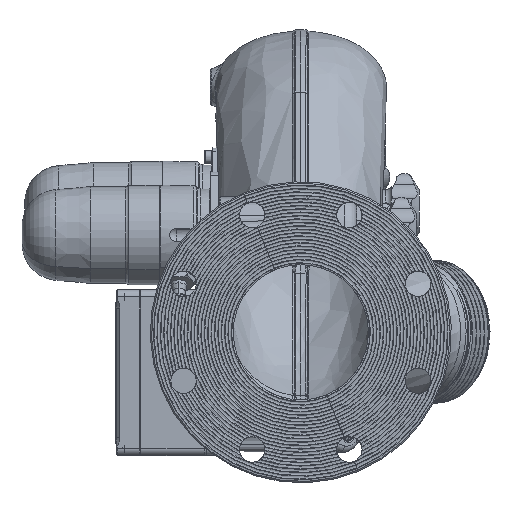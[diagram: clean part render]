
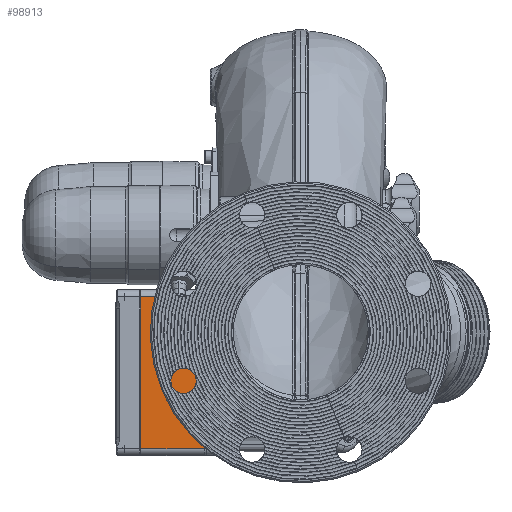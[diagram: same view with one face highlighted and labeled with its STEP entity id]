
A CAD part, front view. The second image highlights one B-rep face of the part: STEP entity #98913.
In plain terms, the highlighted planar face has unit normal (0, -1, 0).
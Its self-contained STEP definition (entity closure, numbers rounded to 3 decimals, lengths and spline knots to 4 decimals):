
#4425 = EDGE_LOOP ( 'NONE', ( #161565, #98558 ) ) ;
#12666 = ORIENTED_EDGE ( 'NONE', *, *, #132461, .F. ) ;
#17841 = DIRECTION ( 'NONE',  ( 0., 0., 1. ) ) ;
#20387 = EDGE_CURVE ( 'NONE', #143062, #104906, #109998, .T. ) ;
#20429 = LINE ( 'NONE', #59942, #54984 ) ;
#22575 = FACE_BOUND ( 'NONE', #4425, .T. ) ;
#28300 = AXIS2_PLACEMENT_3D ( 'NONE', #70108, #87376, #131534 ) ;
#32026 = ORIENTED_EDGE ( 'NONE', *, *, #58035, .T. ) ;
#34953 = CARTESIAN_POINT ( 'NONE',  ( -4.73, 1.306, 1.044 ) ) ;
#37651 = CIRCLE ( 'NONE', #62398, 0.082 ) ;
#42057 = CARTESIAN_POINT ( 'NONE',  ( -3.05, 1.306, -1.278 ) ) ;
#47829 = VERTEX_POINT ( 'NONE', #200711 ) ;
#48697 = DIRECTION ( 'NONE',  ( -1., 0., 0. ) ) ;
#49370 = DIRECTION ( 'NONE',  ( 0., -1., 0. ) ) ;
#51513 = EDGE_LOOP ( 'NONE', ( #153007, #32026, #142277, #12666 ) ) ;
#54984 = VECTOR ( 'NONE', #123375, 39.3701 ) ;
#58035 = EDGE_CURVE ( 'NONE', #143062, #69434, #90120, .T. ) ;
#58071 = VECTOR ( 'NONE', #126571, 39.3701 ) ;
#59942 = CARTESIAN_POINT ( 'NONE',  ( -2.75, 1.306, 1.044 ) ) ;
#60780 = VERTEX_POINT ( 'NONE', #34953 ) ;
#62398 = AXIS2_PLACEMENT_3D ( 'NONE', #175736, #79865, #17841 ) ;
#63429 = CARTESIAN_POINT ( 'NONE',  ( -2.75, 1.306, -3.436 ) ) ;
#65912 = CARTESIAN_POINT ( 'NONE',  ( -4.73, 1.306, -3.436 ) ) ;
#69434 = VERTEX_POINT ( 'NONE', #101267 ) ;
#70108 = CARTESIAN_POINT ( 'NONE',  ( -3.05, 1.306, -1.196 ) ) ;
#70462 = VECTOR ( 'NONE', #148017, 39.3701 ) ;
#74291 = CARTESIAN_POINT ( 'NONE',  ( -4.73, 1.306, -3.436 ) ) ;
#76258 = CARTESIAN_POINT ( 'NONE',  ( -2.85, 1.306, 1.044 ) ) ;
#79035 = AXIS2_PLACEMENT_3D ( 'NONE', #97588, #49370, #48697 ) ;
#79865 = DIRECTION ( 'NONE',  ( 0., -1., 0. ) ) ;
#81800 = CIRCLE ( 'NONE', #28300, 0.082 ) ;
#87376 = DIRECTION ( 'NONE',  ( 0., -1., 0. ) ) ;
#90120 = LINE ( 'NONE', #76258, #58071 ) ;
#97588 = CARTESIAN_POINT ( 'NONE',  ( -2.75, 1.306, -3.436 ) ) ;
#98558 = ORIENTED_EDGE ( 'NONE', *, *, #185118, .F. ) ;
#98913 = ADVANCED_FACE ( 'NONE', ( #22575, #195314 ), #190753, .T. ) ;
#101267 = CARTESIAN_POINT ( 'NONE',  ( -2.85, 1.306, 1.044 ) ) ;
#103265 = VERTEX_POINT ( 'NONE', #42057 ) ;
#104906 = VERTEX_POINT ( 'NONE', #74291 ) ;
#109998 = LINE ( 'NONE', #63429, #188977 ) ;
#123375 = DIRECTION ( 'NONE',  ( -1., 0., 0. ) ) ;
#126571 = DIRECTION ( 'NONE',  ( 0., 0., 1. ) ) ;
#131534 = DIRECTION ( 'NONE',  ( 0., 0., 1. ) ) ;
#132461 = EDGE_CURVE ( 'NONE', #104906, #60780, #201376, .T. ) ;
#142277 = ORIENTED_EDGE ( 'NONE', *, *, #146818, .T. ) ;
#143062 = VERTEX_POINT ( 'NONE', #146664 ) ;
#146664 = CARTESIAN_POINT ( 'NONE',  ( -2.85, 1.306, -3.436 ) ) ;
#146818 = EDGE_CURVE ( 'NONE', #69434, #60780, #20429, .T. ) ;
#148017 = DIRECTION ( 'NONE',  ( 0., 0., 1. ) ) ;
#153007 = ORIENTED_EDGE ( 'NONE', *, *, #20387, .F. ) ;
#161565 = ORIENTED_EDGE ( 'NONE', *, *, #183494, .F. ) ;
#173789 = DIRECTION ( 'NONE',  ( -1., 0., 0. ) ) ;
#175736 = CARTESIAN_POINT ( 'NONE',  ( -3.05, 1.306, -1.196 ) ) ;
#183494 = EDGE_CURVE ( 'NONE', #47829, #103265, #37651, .T. ) ;
#185118 = EDGE_CURVE ( 'NONE', #103265, #47829, #81800, .T. ) ;
#188977 = VECTOR ( 'NONE', #173789, 39.3701 ) ;
#190753 = PLANE ( 'NONE',  #79035 ) ;
#195314 = FACE_OUTER_BOUND ( 'NONE', #51513, .T. ) ;
#200711 = CARTESIAN_POINT ( 'NONE',  ( -3.05, 1.306, -1.114 ) ) ;
#201376 = LINE ( 'NONE', #65912, #70462 ) ;
